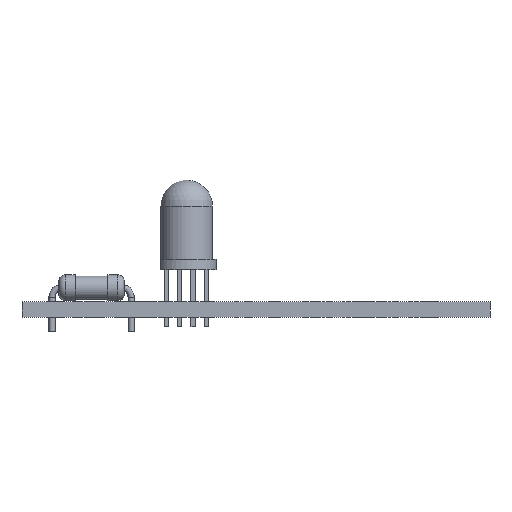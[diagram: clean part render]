
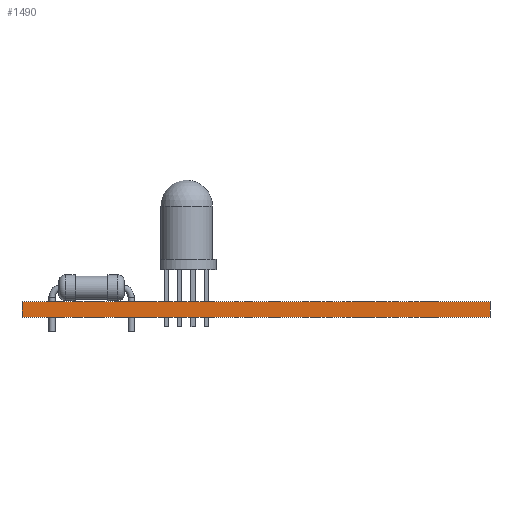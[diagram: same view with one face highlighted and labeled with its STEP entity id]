
A CAD part, front view. The second image highlights one B-rep face of the part: STEP entity #1490.
In plain terms, the highlighted planar face has unit normal (0, -1, 0).
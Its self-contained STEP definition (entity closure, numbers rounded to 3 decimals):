
#1490 = ADVANCED_FACE('',(#1491),#1525,.T.);
#1491 = FACE_BOUND('',#1492,.T.);
#1492 = EDGE_LOOP('',(#1493,#1503,#1511,#1519));
#1493 = ORIENTED_EDGE('',*,*,#1494,.T.);
#1494 = EDGE_CURVE('',#1495,#1497,#1499,.T.);
#1495 = VERTEX_POINT('',#1496);
#1496 = CARTESIAN_POINT('',(95.5,-140.,0.));
#1497 = VERTEX_POINT('',#1498);
#1498 = CARTESIAN_POINT('',(95.5,-140.,1.51));
#1499 = LINE('',#1500,#1501);
#1500 = CARTESIAN_POINT('',(95.5,-140.,0.));
#1501 = VECTOR('',#1502,1.);
#1502 = DIRECTION('',(0.,0.,1.));
#1503 = ORIENTED_EDGE('',*,*,#1504,.T.);
#1504 = EDGE_CURVE('',#1497,#1505,#1507,.T.);
#1505 = VERTEX_POINT('',#1506);
#1506 = CARTESIAN_POINT('',(50.5,-140.,1.51));
#1507 = LINE('',#1508,#1509);
#1508 = CARTESIAN_POINT('',(95.5,-140.,1.51));
#1509 = VECTOR('',#1510,1.);
#1510 = DIRECTION('',(-1.,0.,0.));
#1511 = ORIENTED_EDGE('',*,*,#1512,.F.);
#1512 = EDGE_CURVE('',#1513,#1505,#1515,.T.);
#1513 = VERTEX_POINT('',#1514);
#1514 = CARTESIAN_POINT('',(50.5,-140.,0.));
#1515 = LINE('',#1516,#1517);
#1516 = CARTESIAN_POINT('',(50.5,-140.,0.));
#1517 = VECTOR('',#1518,1.);
#1518 = DIRECTION('',(0.,0.,1.));
#1519 = ORIENTED_EDGE('',*,*,#1520,.F.);
#1520 = EDGE_CURVE('',#1495,#1513,#1521,.T.);
#1521 = LINE('',#1522,#1523);
#1522 = CARTESIAN_POINT('',(95.5,-140.,0.));
#1523 = VECTOR('',#1524,1.);
#1524 = DIRECTION('',(-1.,0.,0.));
#1525 = PLANE('',#1526);
#1526 = AXIS2_PLACEMENT_3D('',#1527,#1528,#1529);
#1527 = CARTESIAN_POINT('',(95.5,-140.,0.));
#1528 = DIRECTION('',(0.,-1.,0.));
#1529 = DIRECTION('',(-1.,0.,0.));
